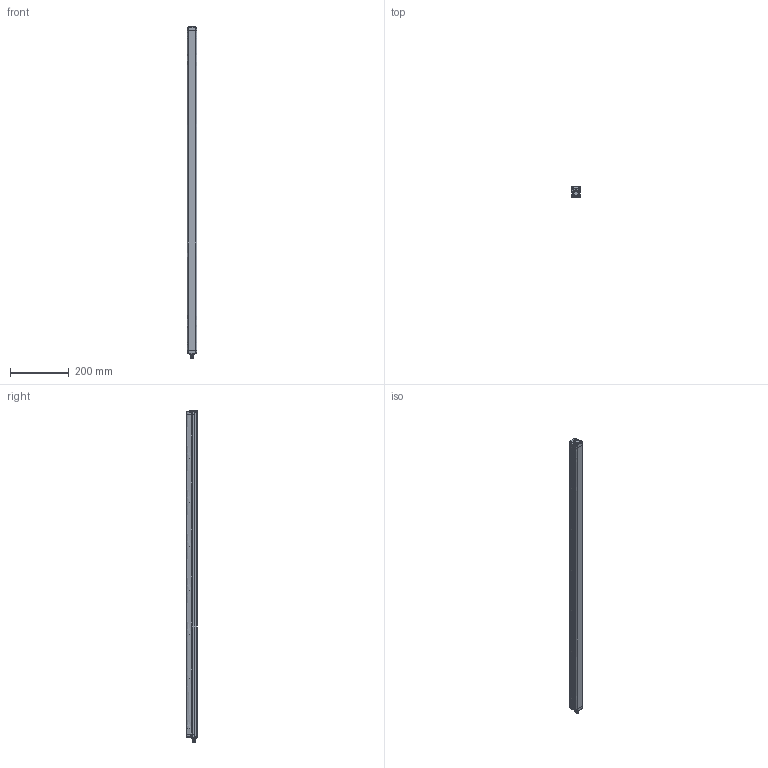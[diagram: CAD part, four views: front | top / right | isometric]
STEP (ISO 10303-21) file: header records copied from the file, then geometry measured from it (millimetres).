
FILE_DESCRIPTION((''),'2;1');
FILE_NAME('2008580','2011-03-28T',('rink'),(''),'PRO/ENGINEER BY PARAMETRIC TECHNOLOGY CORPORATION, 2009380','PRO/ENGINEER BY PARAMETRIC TECHNOLOGY CORPORATION, 2009380','');
FILE_SCHEMA(('AUTOMOTIVE_DESIGN_CC2 { 1 2 10303 214 -1 1 5 2 }'));
Products named in the file (1): 2008580
Bounding box: 32.3 x 37.08 x 1133.24 mm (x, y, z)
Volume: 1126748.9 mm3; surface area: 264856.4 mm2
Topology: 17 solids, 167 shells, 1805 faces, 4861 edges, 3038 vertices
Faces by surface type: cylinder 645, plane 406, torus 278, bspline 215, sphere 124, extrusion 95, cone 42
Entity records: 75180 total; most frequent: CARTESIAN_POINT 32679, DIRECTION 8716, ORIENTED_EDGE 8484, EDGE_CURVE 4752, AXIS2_PLACEMENT_3D 3560, VERTEX_POINT 3030, CIRCLE 2064, EDGE_LOOP 1927
